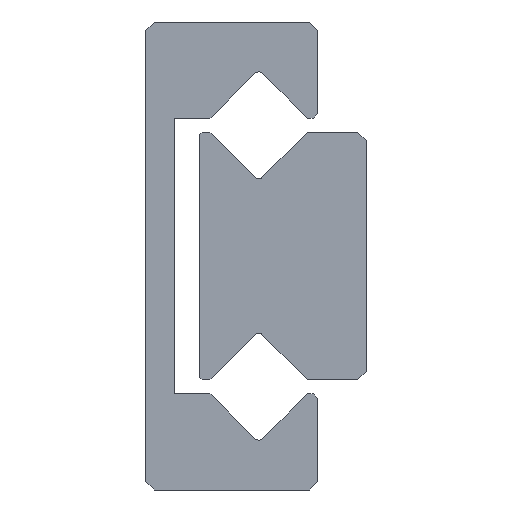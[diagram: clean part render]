
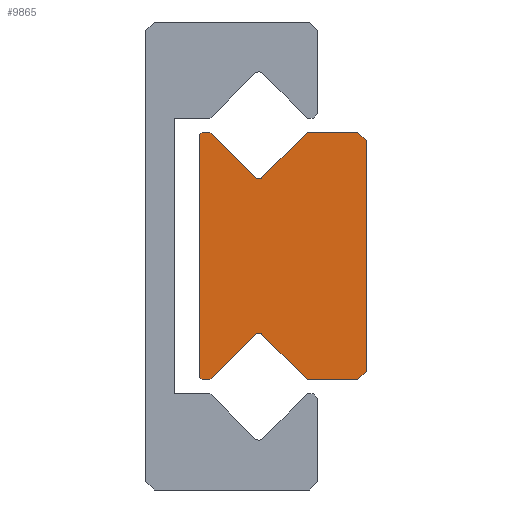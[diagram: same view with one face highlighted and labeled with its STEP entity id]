
A CAD part, left-side view. The second image highlights one B-rep face of the part: STEP entity #9865.
In plain terms, the highlighted planar face has unit normal (-1, 0, 0).
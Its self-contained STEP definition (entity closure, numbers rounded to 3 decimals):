
#64=CIRCLE('',#10440,0.2);
#71=CIRCLE('',#10455,0.2);
#1125=ORIENTED_EDGE('',*,*,#4059,.F.);
#1126=ORIENTED_EDGE('',*,*,#4115,.F.);
#1127=ORIENTED_EDGE('',*,*,#4107,.F.);
#1128=ORIENTED_EDGE('',*,*,#4104,.F.);
#1129=ORIENTED_EDGE('',*,*,#4101,.F.);
#1130=ORIENTED_EDGE('',*,*,#4098,.T.);
#1131=ORIENTED_EDGE('',*,*,#4095,.F.);
#1132=ORIENTED_EDGE('',*,*,#4092,.F.);
#1133=ORIENTED_EDGE('',*,*,#4089,.F.);
#1134=ORIENTED_EDGE('',*,*,#4086,.F.);
#1135=ORIENTED_EDGE('',*,*,#4078,.F.);
#1136=ORIENTED_EDGE('',*,*,#4075,.F.);
#1137=ORIENTED_EDGE('',*,*,#4072,.F.);
#1138=ORIENTED_EDGE('',*,*,#4069,.T.);
#1139=ORIENTED_EDGE('',*,*,#4066,.F.);
#1140=ORIENTED_EDGE('',*,*,#4063,.F.);
#4059=EDGE_CURVE('',#5571,#5572,#6595,.T.);
#4063=EDGE_CURVE('',#5572,#5575,#6599,.T.);
#4066=EDGE_CURVE('',#5575,#5577,#6602,.T.);
#4069=EDGE_CURVE('',#5579,#5577,#64,.T.);
#4072=EDGE_CURVE('',#5579,#5581,#6606,.T.);
#4075=EDGE_CURVE('',#5581,#5583,#6609,.T.);
#4078=EDGE_CURVE('',#5583,#5585,#6612,.T.);
#4086=EDGE_CURVE('',#5585,#5592,#6615,.T.);
#4089=EDGE_CURVE('',#5592,#5594,#6618,.T.);
#4092=EDGE_CURVE('',#5594,#5596,#6621,.T.);
#4095=EDGE_CURVE('',#5596,#5598,#6624,.T.);
#4098=EDGE_CURVE('',#5600,#5598,#71,.T.);
#4101=EDGE_CURVE('',#5600,#5602,#6628,.T.);
#4104=EDGE_CURVE('',#5602,#5604,#6631,.T.);
#4107=EDGE_CURVE('',#5604,#5606,#6634,.T.);
#4115=EDGE_CURVE('',#5606,#5571,#6637,.T.);
#5571=VERTEX_POINT('',#14981);
#5572=VERTEX_POINT('',#14982);
#5575=VERTEX_POINT('',#14990);
#5577=VERTEX_POINT('',#14996);
#5579=VERTEX_POINT('',#15002);
#5581=VERTEX_POINT('',#15008);
#5583=VERTEX_POINT('',#15014);
#5585=VERTEX_POINT('',#15020);
#5592=VERTEX_POINT('',#15036);
#5594=VERTEX_POINT('',#15042);
#5596=VERTEX_POINT('',#15048);
#5598=VERTEX_POINT('',#15054);
#5600=VERTEX_POINT('',#15060);
#5602=VERTEX_POINT('',#15066);
#5604=VERTEX_POINT('',#15072);
#5606=VERTEX_POINT('',#15078);
#6595=LINE('',#14980,#7439);
#6599=LINE('',#14989,#7443);
#6602=LINE('',#14995,#7446);
#6606=LINE('',#15007,#7450);
#6609=LINE('',#15013,#7453);
#6612=LINE('',#15019,#7456);
#6615=LINE('',#15035,#7459);
#6618=LINE('',#15041,#7462);
#6621=LINE('',#15047,#7465);
#6624=LINE('',#15053,#7468);
#6628=LINE('',#15065,#7472);
#6631=LINE('',#15071,#7475);
#6634=LINE('',#15077,#7478);
#6637=LINE('',#15093,#7481);
#7439=VECTOR('',#11672,1000.);
#7443=VECTOR('',#11678,1000.);
#7446=VECTOR('',#11683,1000.);
#7450=VECTOR('',#11695,1000.);
#7453=VECTOR('',#11700,1000.);
#7456=VECTOR('',#11705,1000.);
#7459=VECTOR('',#11720,1000.);
#7462=VECTOR('',#11725,1000.);
#7465=VECTOR('',#11730,1000.);
#7468=VECTOR('',#11735,1000.);
#7472=VECTOR('',#11747,1000.);
#7475=VECTOR('',#11752,1000.);
#7478=VECTOR('',#11757,1000.);
#7481=VECTOR('',#11772,1000.);
#8310=EDGE_LOOP('',(#1125,#1126,#1127,#1128,#1129,#1130,#1131,#1132,#1133,
#1134,#1135,#1136,#1137,#1138,#1139,#1140));
#8980=FACE_BOUND('',#8310,.T.);
#9638=PLANE('',#10467);
#9865=ADVANCED_FACE('',(#8980),#9638,.F.);
#10440=AXIS2_PLACEMENT_3D('',#15001,#11688,#11689);
#10455=AXIS2_PLACEMENT_3D('',#15059,#11740,#11741);
#10467=AXIS2_PLACEMENT_3D('',#15096,#11776,#11777);
#11672=DIRECTION('',(0.,-0.707,0.707));
#11678=DIRECTION('',(0.,-1.,0.));
#11683=DIRECTION('',(0.,-0.707,-0.707));
#11688=DIRECTION('',(1.,0.,0.));
#11689=DIRECTION('',(0.,0.,-1.));
#11695=DIRECTION('',(0.,-0.707,0.707));
#11700=DIRECTION('',(0.,-1.,0.));
#11705=DIRECTION('',(0.,-0.707,-0.707));
#11720=DIRECTION('',(0.,0.,-1.));
#11725=DIRECTION('',(0.,0.707,-0.707));
#11730=DIRECTION('',(0.,1.,0.));
#11735=DIRECTION('',(0.,0.707,0.707));
#11740=DIRECTION('',(1.,0.,0.));
#11741=DIRECTION('',(0.,0.,-1.));
#11747=DIRECTION('',(0.,0.707,-0.707));
#11752=DIRECTION('',(0.,1.,0.));
#11757=DIRECTION('',(0.,0.707,0.707));
#11772=DIRECTION('',(0.,0.,1.));
#11776=DIRECTION('',(1.,0.,0.));
#11777=DIRECTION('',(0.,0.,-1.));
#14980=CARTESIAN_POINT('',(-40.,6.05,4.4));
#14981=CARTESIAN_POINT('',(-40.,6.05,4.4));
#14982=CARTESIAN_POINT('',(-40.,5.95,4.5));
#14989=CARTESIAN_POINT('',(-40.,5.95,4.5));
#14990=CARTESIAN_POINT('',(-40.,5.671,4.5));
#14995=CARTESIAN_POINT('',(-40.,5.671,4.5));
#14996=CARTESIAN_POINT('',(-40.,4.041,2.87));
#15001=CARTESIAN_POINT('',(-40.,3.9,3.012));
#15002=CARTESIAN_POINT('',(-40.,3.759,2.87));
#15007=CARTESIAN_POINT('',(-40.,3.759,2.87));
#15008=CARTESIAN_POINT('',(-40.,2.129,4.5));
#15013=CARTESIAN_POINT('',(-40.,2.129,4.5));
#15014=CARTESIAN_POINT('',(-40.,0.3,4.5));
#15019=CARTESIAN_POINT('',(-40.,0.3,4.5));
#15020=CARTESIAN_POINT('',(-40.,0.,4.2));
#15035=CARTESIAN_POINT('',(-40.,0.,4.2));
#15036=CARTESIAN_POINT('',(-40.,0.,-4.2));
#15041=CARTESIAN_POINT('',(-40.,0.,-4.2));
#15042=CARTESIAN_POINT('',(-40.,0.3,-4.5));
#15047=CARTESIAN_POINT('',(-40.,0.3,-4.5));
#15048=CARTESIAN_POINT('',(-40.,2.129,-4.5));
#15053=CARTESIAN_POINT('',(-40.,2.129,-4.5));
#15054=CARTESIAN_POINT('',(-40.,3.759,-2.87));
#15059=CARTESIAN_POINT('',(-40.,3.9,-3.012));
#15060=CARTESIAN_POINT('',(-40.,4.041,-2.87));
#15065=CARTESIAN_POINT('',(-40.,4.041,-2.87));
#15066=CARTESIAN_POINT('',(-40.,5.671,-4.5));
#15071=CARTESIAN_POINT('',(-40.,5.671,-4.5));
#15072=CARTESIAN_POINT('',(-40.,5.95,-4.5));
#15077=CARTESIAN_POINT('',(-40.,5.95,-4.5));
#15078=CARTESIAN_POINT('',(-40.,6.05,-4.4));
#15093=CARTESIAN_POINT('',(-40.,6.05,-4.4));
#15096=CARTESIAN_POINT('',(-40.,3.9,3.012));
